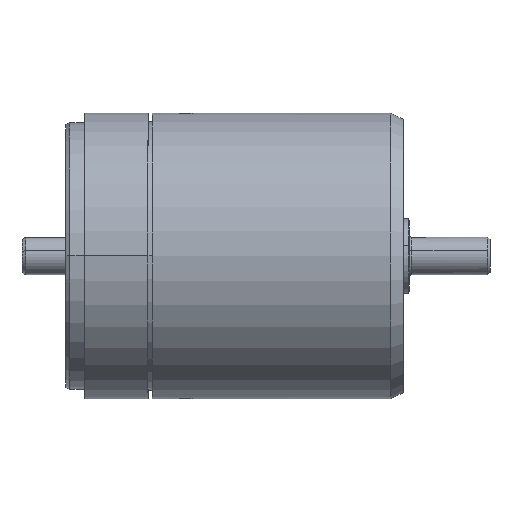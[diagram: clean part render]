
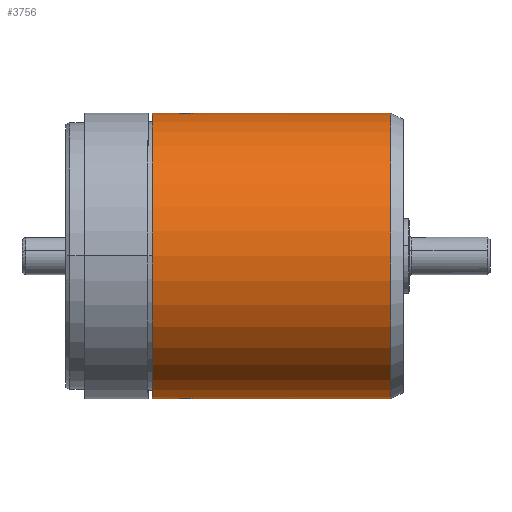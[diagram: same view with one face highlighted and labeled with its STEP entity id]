
A CAD part, top view. The second image highlights one B-rep face of the part: STEP entity #3756.
In plain terms, the highlighted cylindrical face has radius 11.5 mm (diameter 23 mm), a partial arc.
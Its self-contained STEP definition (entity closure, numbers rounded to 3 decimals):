
#32 = CARTESIAN_POINT ( 'NONE',  ( -8.65, 11.5, 0.209 ) ) ;
#304 = ORIENTED_EDGE ( 'NONE', *, *, #7565, .T. ) ;
#356 = VERTEX_POINT ( 'NONE', #10086 ) ;
#379 = CARTESIAN_POINT ( 'NONE',  ( -8.65, 11.5, 0. ) ) ;
#660 = VECTOR ( 'NONE', #1987, 1000. ) ;
#690 = EDGE_CURVE ( 'NONE', #5066, #5068, #9761, .T. ) ;
#812 = VERTEX_POINT ( 'NONE', #2701 ) ;
#1084 = B_SPLINE_CURVE_WITH_KNOTS ( 'NONE', 3,
 ( #1940, #5838, #7556, #8218, #8431, #8462, #3702, #5986, #7664, #9181, #9283, #4483, #3598, #9210, #7736, #4374 ),
 .UNSPECIFIED., .F., .F.,
 ( 4, 2, 2, 2, 2, 2, 2, 4 ),
 ( 0., 0., 0.001, 0.001, 0.002, 0.002, 0.002, 0.003 ),
 .UNSPECIFIED. ) ;
#1120 = FACE_OUTER_BOUND ( 'NONE', #2279, .T. ) ;
#1197 = DIRECTION ( 'NONE',  ( 1., 0., 0. ) ) ;
#1336 = CARTESIAN_POINT ( 'NONE',  ( -12.2, 0., 0. ) ) ;
#1627 = DIRECTION ( 'NONE',  ( 1., 0., 0. ) ) ;
#1772 = CARTESIAN_POINT ( 'NONE',  ( -10.25, 11.5, 0.211 ) ) ;
#1846 = CARTESIAN_POINT ( 'NONE',  ( -10.25, 11.5, 0. ) ) ;
#1940 = CARTESIAN_POINT ( 'NONE',  ( -10.25, -11.5, 0. ) ) ;
#1963 = CIRCLE ( 'NONE', #10303, 11.5 ) ;
#1981 = DIRECTION ( 'NONE',  ( -1., 0., 0. ) ) ;
#1987 = DIRECTION ( 'NONE',  ( 1., 0., 0. ) ) ;
#2279 = EDGE_LOOP ( 'NONE', ( #6727, #304, #6592, #5404, #7837, #6290, #9955, #4540 ) ) ;
#2327 = CARTESIAN_POINT ( 'NONE',  ( 9.868, -11.5, 0. ) ) ;
#2401 = DIRECTION ( 'NONE',  ( 1., 0., 0. ) ) ;
#2564 = EDGE_CURVE ( 'NONE', #5068, #812, #1963, .T. ) ;
#2701 = CARTESIAN_POINT ( 'NONE',  ( 7., -11.5, 0. ) ) ;
#2794 = DIRECTION ( 'NONE',  ( 0., -1., 0. ) ) ;
#2931 = CARTESIAN_POINT ( 'NONE',  ( 9.868, 11.5, 0. ) ) ;
#3045 = VECTOR ( 'NONE', #10145, 1000. ) ;
#3244 = VERTEX_POINT ( 'NONE', #8451 ) ;
#3505 = CARTESIAN_POINT ( 'NONE',  ( 9.868, -11.5, 0. ) ) ;
#3598 = CARTESIAN_POINT ( 'NONE',  ( -8.751, -11.493, 0.403 ) ) ;
#3642 = CARTESIAN_POINT ( 'NONE',  ( 9.868, 0., 0. ) ) ;
#3702 = CARTESIAN_POINT ( 'NONE',  ( -9.659, -11.472, 0.8 ) ) ;
#3756 = ADVANCED_FACE ( 'NONE', ( #1120 ), #9409, .T. ) ;
#3775 = EDGE_CURVE ( 'NONE', #356, #6230, #5012, .T. ) ;
#3904 = AXIS2_PLACEMENT_3D ( 'NONE', #3642, #1197, #6096 ) ;
#4045 = CARTESIAN_POINT ( 'NONE',  ( -8.65, 11.5, 0. ) ) ;
#4109 = CARTESIAN_POINT ( 'NONE',  ( -9.24, 11.474, 0.779 ) ) ;
#4145 = CARTESIAN_POINT ( 'NONE',  ( -9.941, 11.482, 0.64 ) ) ;
#4359 = EDGE_CURVE ( 'NONE', #5066, #3244, #5925, .T. ) ;
#4374 = CARTESIAN_POINT ( 'NONE',  ( -8.65, -11.5, 0. ) ) ;
#4483 = CARTESIAN_POINT ( 'NONE',  ( -8.81, -11.49, 0.491 ) ) ;
#4540 = ORIENTED_EDGE ( 'NONE', *, *, #9772, .F. ) ;
#4894 = VECTOR ( 'NONE', #6674, 1000. ) ;
#5012 = CIRCLE ( 'NONE', #8396, 11.5 ) ;
#5066 = VERTEX_POINT ( 'NONE', #379 ) ;
#5068 = VERTEX_POINT ( 'NONE', #7711 ) ;
#5404 = ORIENTED_EDGE ( 'NONE', *, *, #9305, .T. ) ;
#5591 = CARTESIAN_POINT ( 'NONE',  ( -9.659, 11.474, 0.779 ) ) ;
#5838 = CARTESIAN_POINT ( 'NONE',  ( -10.25, -11.5, 0.106 ) ) ;
#5925 = B_SPLINE_CURVE_WITH_KNOTS ( 'NONE', 3,
 ( #4045, #32, #6447, #7250, #8874, #4109, #9718, #10399, #5591, #7459, #4145, #6589, #1772, #1846 ),
 .UNSPECIFIED., .F., .F.,
 ( 4, 2, 2, 2, 2, 2, 4 ),
 ( 0.003, 0.003, 0.003, 0.004, 0.004, 0.004, 0.005 ),
 .UNSPECIFIED. ) ;
#5986 = CARTESIAN_POINT ( 'NONE',  ( -9.346, -11.472, 0.8 ) ) ;
#6096 = DIRECTION ( 'NONE',  ( 0., 1., 0. ) ) ;
#6230 = VERTEX_POINT ( 'NONE', #10253 ) ;
#6290 = ORIENTED_EDGE ( 'NONE', *, *, #690, .F. ) ;
#6447 = CARTESIAN_POINT ( 'NONE',  ( -8.737, 11.493, 0.418 ) ) ;
#6589 = CARTESIAN_POINT ( 'NONE',  ( -10.163, 11.493, 0.419 ) ) ;
#6592 = ORIENTED_EDGE ( 'NONE', *, *, #6901, .T. ) ;
#6674 = DIRECTION ( 'NONE',  ( 1., 0., 0. ) ) ;
#6727 = ORIENTED_EDGE ( 'NONE', *, *, #3775, .F. ) ;
#6901 = EDGE_CURVE ( 'NONE', #9626, #9617, #1084, .T. ) ;
#7250 = CARTESIAN_POINT ( 'NONE',  ( -8.958, 11.482, 0.639 ) ) ;
#7414 = LINE ( 'NONE', #3505, #660 ) ;
#7459 = CARTESIAN_POINT ( 'NONE',  ( -9.853, 11.479, 0.699 ) ) ;
#7556 = CARTESIAN_POINT ( 'NONE',  ( -10.229, -11.498, 0.21 ) ) ;
#7565 = EDGE_CURVE ( 'NONE', #356, #9626, #7414, .T. ) ;
#7664 = CARTESIAN_POINT ( 'NONE',  ( -9.241, -11.474, 0.779 ) ) ;
#7711 = CARTESIAN_POINT ( 'NONE',  ( 7., 11.5, 0. ) ) ;
#7736 = CARTESIAN_POINT ( 'NONE',  ( -8.65, -11.5, 0.104 ) ) ;
#7837 = ORIENTED_EDGE ( 'NONE', *, *, #2564, .F. ) ;
#7937 = LINE ( 'NONE', #2931, #3045 ) ;
#8218 = CARTESIAN_POINT ( 'NONE',  ( -10.149, -11.493, 0.403 ) ) ;
#8396 = AXIS2_PLACEMENT_3D ( 'NONE', #1336, #1981, #2794 ) ;
#8431 = CARTESIAN_POINT ( 'NONE',  ( -10.089, -11.49, 0.492 ) ) ;
#8451 = CARTESIAN_POINT ( 'NONE',  ( -10.25, 11.5, 0. ) ) ;
#8462 = CARTESIAN_POINT ( 'NONE',  ( -9.868, -11.479, 0.713 ) ) ;
#8874 = CARTESIAN_POINT ( 'NONE',  ( -9.046, 11.479, 0.699 ) ) ;
#9181 = CARTESIAN_POINT ( 'NONE',  ( -9.047, -11.479, 0.699 ) ) ;
#9206 = CARTESIAN_POINT ( 'NONE',  ( -10.25, -11.5, 0. ) ) ;
#9210 = CARTESIAN_POINT ( 'NONE',  ( -8.671, -11.499, 0.209 ) ) ;
#9256 = LINE ( 'NONE', #2327, #9866 ) ;
#9283 = CARTESIAN_POINT ( 'NONE',  ( -8.959, -11.482, 0.64 ) ) ;
#9305 = EDGE_CURVE ( 'NONE', #9617, #812, #9256, .T. ) ;
#9409 = CYLINDRICAL_SURFACE ( 'NONE', #3904, 11.5 ) ;
#9617 = VERTEX_POINT ( 'NONE', #9897 ) ;
#9626 = VERTEX_POINT ( 'NONE', #9206 ) ;
#9667 = CARTESIAN_POINT ( 'NONE',  ( 7., 0., 0. ) ) ;
#9704 = DIRECTION ( 'NONE',  ( 0., 1., 0. ) ) ;
#9718 = CARTESIAN_POINT ( 'NONE',  ( -9.344, 11.472, 0.8 ) ) ;
#9761 = LINE ( 'NONE', #9825, #4894 ) ;
#9772 = EDGE_CURVE ( 'NONE', #6230, #3244, #7937, .T. ) ;
#9825 = CARTESIAN_POINT ( 'NONE',  ( 9.868, 11.5, 0. ) ) ;
#9866 = VECTOR ( 'NONE', #2401, 1000. ) ;
#9897 = CARTESIAN_POINT ( 'NONE',  ( -8.65, -11.5, 0. ) ) ;
#9955 = ORIENTED_EDGE ( 'NONE', *, *, #4359, .T. ) ;
#10086 = CARTESIAN_POINT ( 'NONE',  ( -12.2, -11.5, 0. ) ) ;
#10145 = DIRECTION ( 'NONE',  ( 1., 0., 0. ) ) ;
#10253 = CARTESIAN_POINT ( 'NONE',  ( -12.2, 11.5, 0. ) ) ;
#10303 = AXIS2_PLACEMENT_3D ( 'NONE', #9667, #1627, #9704 ) ;
#10399 = CARTESIAN_POINT ( 'NONE',  ( -9.555, 11.472, 0.8 ) ) ;
